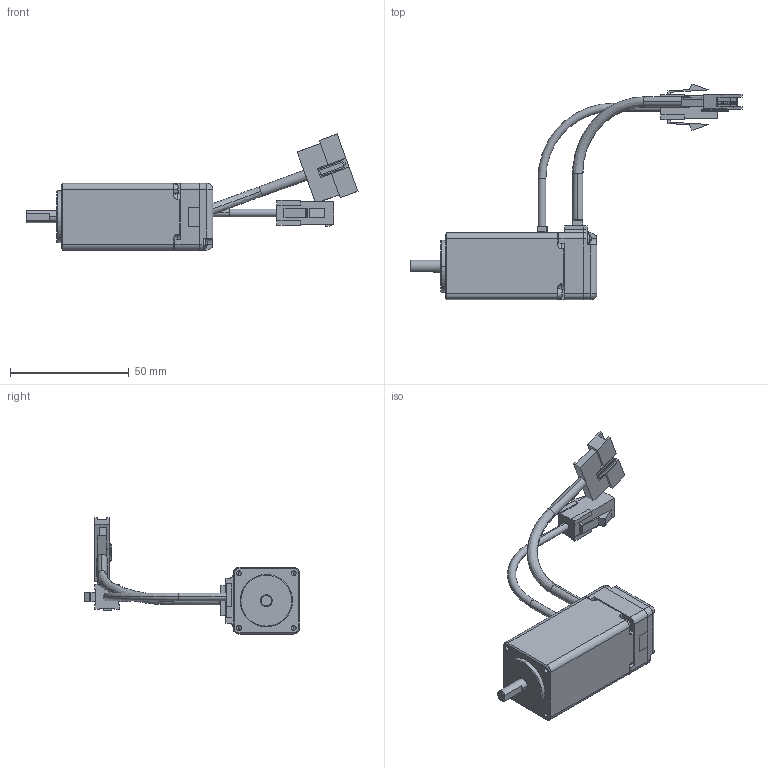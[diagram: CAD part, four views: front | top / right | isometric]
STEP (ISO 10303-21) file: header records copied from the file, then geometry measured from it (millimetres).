
FILE_DESCRIPTION (( 'STEP AP203' ), '1' );
FILE_NAME ('P11-MO-028-07-R02.STEP', '2015-06-29T07:52:20', ( '' ), ( '' ), 'SwSTEP 2.0', 'SolidWorks 2013', '' );
FILE_SCHEMA (( 'CONFIG_CONTROL_DESIGN' ));
Length unit declared in the file: millimetre
Products named in the file (10): P11-MO-028-07-R02; 130115 28mm ENCODER BASE_ル遽; 20陝 PCB_ル遽; 葆斜啻す 縛囀渦_ル遽; round cross head screw_ks_KS 1023 RC - M2.5 x 12-N; 20阿 浚内歹 纳捞喉急_钎霖; SM-28L-R00; M41-EC-028-02-R01_ル遽; M11-MO-028-03-R01; 20陝 賅攪瞪錳摹_ル遽
Assembly tree (10 placements, depth 3):
  P11-MO-028-07-R02
    20陝 賅攪瞪錳摹_ル遽
    SM-28L-R00
      130115 28mm ENCODER BASE_ル遽
      20陝 PCB_ル遽
      葆斜啻す 縛囀渦_ル遽
      round cross head screw_ks_KS 1023 RC - M2.5 x 12-N  x2
      20阿 浚内歹 纳捞喉急_钎霖
    M41-EC-028-02-R01_ル遽
    M11-MO-028-03-R01
Bounding box: 139.59 x 90.51 x 48.79 mm (x, y, z)
Volume: 51159.3 mm3; surface area: 22649 mm2
Topology: 9 solids, 9 shells, 635 faces, 1627 edges, 1036 vertices
Faces by surface type: plane 358, cylinder 177, cone 65, bspline 19, torus 10, sphere 6
Entity records: 19802 total; most frequent: CARTESIAN_POINT 3865, DIRECTION 3166, ORIENTED_EDGE 3046, EDGE_CURVE 1523, AXIS2_PLACEMENT_3D 1085, VECTOR 996, LINE 996, VERTEX_POINT 983
